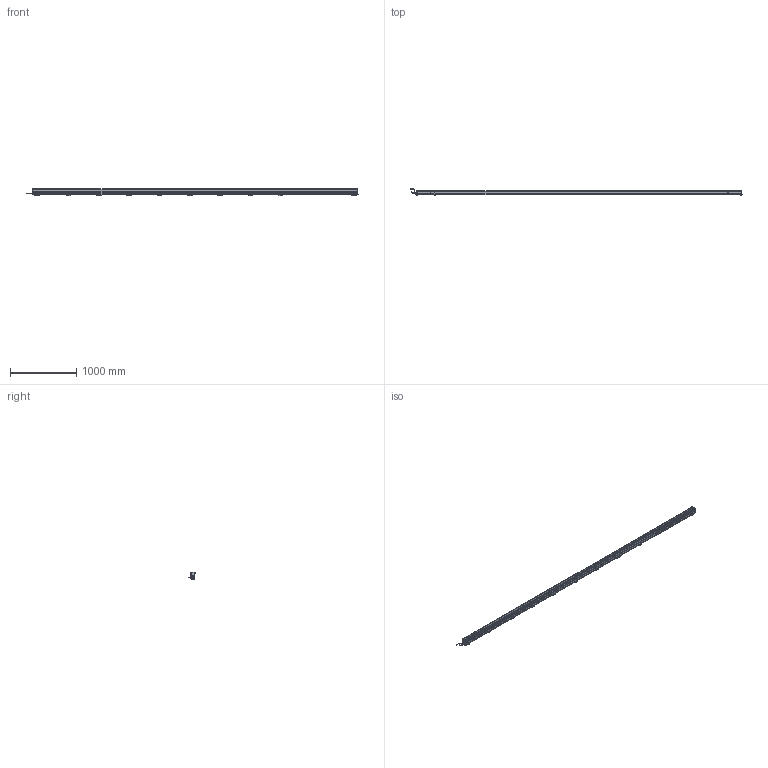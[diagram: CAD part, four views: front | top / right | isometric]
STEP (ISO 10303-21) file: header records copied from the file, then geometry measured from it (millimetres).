
FILE_DESCRIPTION(/* description */ (''),/* implementation_level */ '2;1');
FILE_NAME(/* name */ 'THUNDERION2_3D_4750-4945',/* time_stamp */ '2017-09-28T12:48:10+02:00',/* author */ (''),/* organization */ (''),/* preprocessor_version */ 'ST-DEVELOPER v15.7',/* originating_system */ 'HiCAD 2015 2002.1 Build 408',/* authorisation */ '');
FILE_SCHEMA (('AUTOMOTIVE_DESIGN { 1 0 10303 214 1 1 1 1 }'));
Products named in the file (154): Root; -_ThunderION 4750/4945; -_Side profile; -_Bar; -_Connector straight; EXTRUDED SOLID_0; -_Cord; REVOLVED SOLID_1; REVOLVED SOLID_3; DIN 13-M12x1,5; -_Connector angled; REVOLVED SOLID_2; 4532000100_Mounting bracket bars; -_Side piece; -_Slide piece; -_Bracket small; DIN 13-M3; DIN 76-M3; -_Cable End; light pipe M; light pipe L; -_Cap CE; -_Stud M4; -_Connector M12 male 5 pole_1; -_Contacts; ABSR_1_2_1_1_Inner part; ABSR_1_2_1_2_Inner part; bus; Pg 9; -_Ring tongue terminal; 9230000020_Nut M4; GEWINDE; 9240100020_Spring washer M4; ISO 7051-ST3.5x9.5-C-H_Tapping screws_0; -_Fill; -_Dead end; -_Cap DE; -_Emitter; -_Support Side Profile; -_End Plate
Assembly tree (153 placements, depth 6):
  Root
    -_ThunderION 4750/4945
      -_Side profile
      -_Side profile
      -_Bar
      -_Connector straight
        EXTRUDED SOLID_0
        -_Cord
        REVOLVED SOLID_1
        REVOLVED SOLID_3
          DIN 13-M12x1,5
      -_Connector angled
        REVOLVED SOLID_1
        EXTRUDED SOLID_0
        -_Cord
        REVOLVED SOLID_2
        REVOLVED SOLID_3
          DIN 13-M12x1,5
      4532000100_Mounting bracket bars
        -_Side piece
        -_Side piece
        -_Slide piece
        -_Bracket small
          DIN 13-M3
          DIN 13-M3
          DIN 76-M3
          DIN 76-M3
      4532000100_Mounting bracket bars
        -_Side piece
        -_Side piece
        -_Slide piece
        -_Bracket small
          DIN 13-M3
          DIN 13-M3
          DIN 76-M3
          DIN 76-M3
      4532000100_Mounting bracket bars
        -_Side piece
        -_Side piece
        -_Slide piece
        -_Bracket small
          DIN 13-M3
          DIN 13-M3
          DIN 76-M3
          DIN 76-M3
      4532000100_Mounting bracket bars
        -_Side piece
        -_Side piece
        -_Slide piece
        -_Bracket small
          DIN 13-M3
          DIN 13-M3
          DIN 76-M3
          DIN 76-M3
      4532000100_Mounting bracket bars
        -_Side piece
        -_Side piece
        -_Slide piece
        -_Bracket small
          DIN 13-M3
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Bounding box: 5023.34 x 92.25 x 113 mm (x, y, z)
Volume: 15585565.1 mm3; surface area: 3539496.3 mm2
Topology: 141 solids, 171 shells, 8077 faces, 20543 edges, 12341 vertices
Faces by surface type: cylinder 3338, plane 3245, torus 456, bspline 440, sphere 409, cone 189
Full cylindrical faces by diameter (mm): 0.8 x10, 1 x10, 2.387 x40, 2.5 x1, 2.64 x16, 3 x80, 3.141 x2, 3.5 x8, 4 x26, 4.2 x3, 4.4 x1, 5 x4, 5.5 x50, 7.3 x8, 8 x2, 8.4 x2, 9 x6, 9.6 x1, 10 x2, 10.16 x1, 10.5 x2, 11 x4, 12 x5, 12.8 x1, 13.8 x4, 13.86 x1, 14.5 x3, 15.199 x1, 15.2 x1
Entity records: 465061 total; most frequent: CARTESIAN_POINT 119732, DIRECTION 40037, PRESENTATION_STYLE_ASSIGNMENT 38985, OVER_RIDING_STYLED_ITEM 38848, DRAUGHTING_PRE_DEFINED_CURVE_FONT 38786, CURVE_STYLE 38786, ORIENTED_EDGE 38786, EDGE_CURVE 19393
